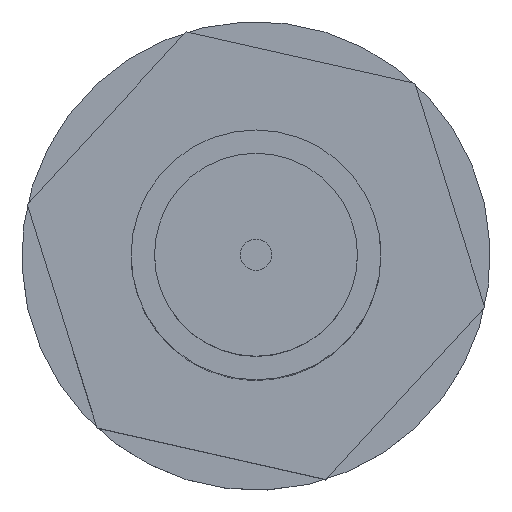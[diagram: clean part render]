
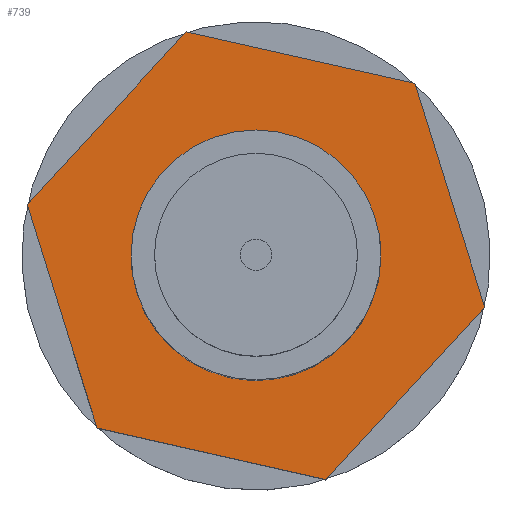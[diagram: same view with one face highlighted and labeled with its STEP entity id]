
A CAD part, top view. The second image highlights one B-rep face of the part: STEP entity #739.
In plain terms, the highlighted planar face has unit normal (0, 0, 1).
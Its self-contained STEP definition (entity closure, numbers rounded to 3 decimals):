
#27 = LINE ( 'NONE', #1586, #1021 ) ;
#46 = FACE_OUTER_BOUND ( 'NONE', #1394, .T. ) ;
#86 = LINE ( 'NONE', #1637, #1206 ) ;
#93 = VECTOR ( 'NONE', #953, 1000. ) ;
#114 = DIRECTION ( 'NONE',  ( 0., 0., 1. ) ) ;
#131 = LINE ( 'NONE', #1673, #1314 ) ;
#185 = VERTEX_POINT ( 'NONE', #1245 ) ;
#213 = CARTESIAN_POINT ( 'NONE',  ( 4., 0., 0. ) ) ;
#243 = EDGE_CURVE ( 'NONE', #970, #185, #1299, .T. ) ;
#294 = CARTESIAN_POINT ( 'NONE',  ( 0., 0., 0. ) ) ;
#324 = DIRECTION ( 'NONE',  ( 1., 0., 0. ) ) ;
#353 = EDGE_LOOP ( 'NONE', ( #916, #768 ) ) ;
#496 = EDGE_CURVE ( 'NONE', #185, #1045, #27, .T. ) ;
#504 = DIRECTION ( 'NONE',  ( 0., 0., 1. ) ) ;
#607 = EDGE_CURVE ( 'NONE', #1593, #957, #929, .T. ) ;
#626 = AXIS2_PLACEMENT_3D ( 'NONE', #1193, #1014, #834 ) ;
#633 = EDGE_CURVE ( 'NONE', #737, #894, #86, .T. ) ;
#644 = CARTESIAN_POINT ( 'NONE',  ( 3.753, -6.5, 0. ) ) ;
#681 = CARTESIAN_POINT ( 'NONE',  ( -7.596, -6.5, 0. ) ) ;
#737 = VERTEX_POINT ( 'NONE', #845 ) ;
#739 = ADVANCED_FACE ( 'NONE', ( #1513, #46 ), #1027, .T. ) ;
#768 = ORIENTED_EDGE ( 'NONE', *, *, #1171, .F. ) ;
#834 = DIRECTION ( 'NONE',  ( 1., 0., 0. ) ) ;
#845 = CARTESIAN_POINT ( 'NONE',  ( -3.753, -6.5, 0. ) ) ;
#859 = CARTESIAN_POINT ( 'NONE',  ( 7.506, 0., 0. ) ) ;
#894 = VERTEX_POINT ( 'NONE', #644 ) ;
#916 = ORIENTED_EDGE ( 'NONE', *, *, #607, .F. ) ;
#929 = CIRCLE ( 'NONE', #626, 4. ) ;
#941 = ORIENTED_EDGE ( 'NONE', *, *, #1145, .T. ) ;
#953 = DIRECTION ( 'NONE',  ( -0.5, 0.866, 0. ) ) ;
#957 = VERTEX_POINT ( 'NONE', #1042 ) ;
#970 = VERTEX_POINT ( 'NONE', #859 ) ;
#1014 = DIRECTION ( 'NONE',  ( 0., 0., 1. ) ) ;
#1021 = VECTOR ( 'NONE', #1401, 1000. ) ;
#1027 = PLANE ( 'NONE',  #1562 ) ;
#1040 = DIRECTION ( 'NONE',  ( -0.5, -0.866, 0. ) ) ;
#1042 = CARTESIAN_POINT ( 'NONE',  ( -4., 0., 0. ) ) ;
#1045 = VERTEX_POINT ( 'NONE', #1297 ) ;
#1068 = ORIENTED_EDGE ( 'NONE', *, *, #633, .T. ) ;
#1091 = VECTOR ( 'NONE', #1040, 1000. ) ;
#1100 = ORIENTED_EDGE ( 'NONE', *, *, #1694, .T. ) ;
#1105 = CARTESIAN_POINT ( 'NONE',  ( -7.506, 0., 0. ) ) ;
#1115 = CARTESIAN_POINT ( 'NONE',  ( 7.506, 0., 0. ) ) ;
#1121 = VECTOR ( 'NONE', #1318, 1000. ) ;
#1145 = EDGE_CURVE ( 'NONE', #1045, #1476, #1572, .T. ) ;
#1171 = EDGE_CURVE ( 'NONE', #957, #1593, #1460, .T. ) ;
#1193 = CARTESIAN_POINT ( 'NONE',  ( 0., 0., 0. ) ) ;
#1206 = VECTOR ( 'NONE', #1464, 1000. ) ;
#1216 = CARTESIAN_POINT ( 'NONE',  ( -3.753, 6.5, 0. ) ) ;
#1245 = CARTESIAN_POINT ( 'NONE',  ( 3.753, 6.5, 0. ) ) ;
#1296 = ORIENTED_EDGE ( 'NONE', *, *, #1306, .T. ) ;
#1297 = CARTESIAN_POINT ( 'NONE',  ( -3.753, 6.5, 0. ) ) ;
#1299 = LINE ( 'NONE', #1115, #93 ) ;
#1306 = EDGE_CURVE ( 'NONE', #894, #970, #1666, .T. ) ;
#1314 = VECTOR ( 'NONE', #1500, 1000. ) ;
#1318 = DIRECTION ( 'NONE',  ( 0.5, 0.866, 0. ) ) ;
#1394 = EDGE_LOOP ( 'NONE', ( #1068, #1296, #1668, #1569, #941, #1100 ) ) ;
#1401 = DIRECTION ( 'NONE',  ( -1., 0., 0. ) ) ;
#1453 = AXIS2_PLACEMENT_3D ( 'NONE', #294, #114, #1656 ) ;
#1460 = CIRCLE ( 'NONE', #1453, 4. ) ;
#1464 = DIRECTION ( 'NONE',  ( 1., 0., 0. ) ) ;
#1476 = VERTEX_POINT ( 'NONE', #1105 ) ;
#1496 = CARTESIAN_POINT ( 'NONE',  ( 3.753, -6.5, 0. ) ) ;
#1500 = DIRECTION ( 'NONE',  ( 0.5, -0.866, 0. ) ) ;
#1513 = FACE_BOUND ( 'NONE', #353, .T. ) ;
#1562 = AXIS2_PLACEMENT_3D ( 'NONE', #681, #504, #324 ) ;
#1569 = ORIENTED_EDGE ( 'NONE', *, *, #496, .T. ) ;
#1572 = LINE ( 'NONE', #1216, #1091 ) ;
#1586 = CARTESIAN_POINT ( 'NONE',  ( 0., 6.5, 0. ) ) ;
#1593 = VERTEX_POINT ( 'NONE', #213 ) ;
#1637 = CARTESIAN_POINT ( 'NONE',  ( 0., -6.5, 0. ) ) ;
#1656 = DIRECTION ( 'NONE',  ( 1., 0., 0. ) ) ;
#1666 = LINE ( 'NONE', #1496, #1121 ) ;
#1668 = ORIENTED_EDGE ( 'NONE', *, *, #243, .T. ) ;
#1673 = CARTESIAN_POINT ( 'NONE',  ( -7.506, 0., 0. ) ) ;
#1694 = EDGE_CURVE ( 'NONE', #1476, #737, #131, .T. ) ;
